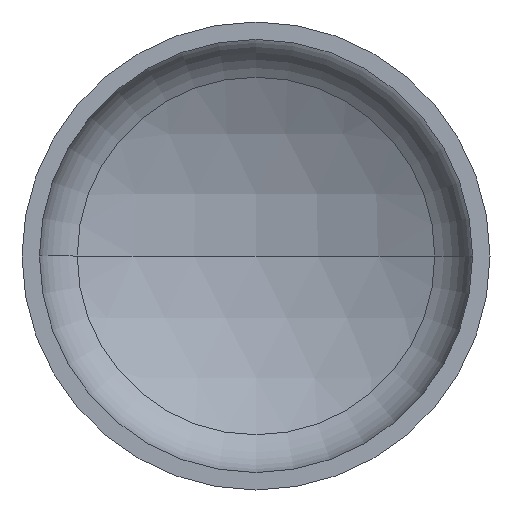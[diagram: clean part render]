
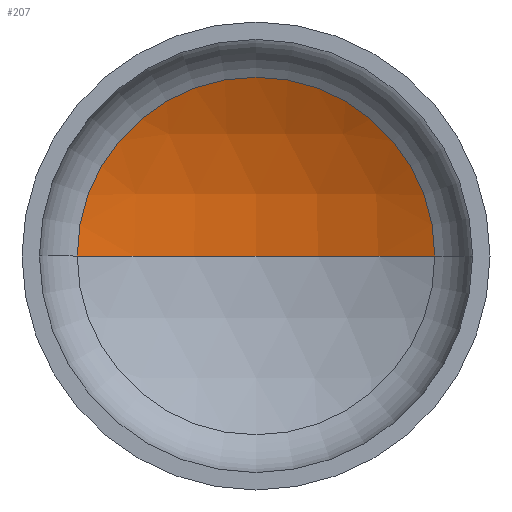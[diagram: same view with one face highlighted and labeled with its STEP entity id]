
A CAD part, front view. The second image highlights one B-rep face of the part: STEP entity #207.
In plain terms, the highlighted spherical face has radius 880 mm.
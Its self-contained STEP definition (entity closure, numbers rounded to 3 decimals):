
#7 = EDGE_LOOP ( 'NONE', ( #87, #408, #45 ) ) ;
#10 = CARTESIAN_POINT ( 'NONE',  ( 420.169, 279.371, 0. ) ) ;
#13 = AXIS2_PLACEMENT_3D ( 'NONE', #352, #213, #141 ) ;
#23 = AXIS2_PLACEMENT_3D ( 'NONE', #256, #193, #194 ) ;
#31 = AXIS2_PLACEMENT_3D ( 'NONE', #190, #50, #48 ) ;
#33 = AXIS2_PLACEMENT_3D ( 'NONE', #129, #297, #235 ) ;
#45 = ORIENTED_EDGE ( 'NONE', *, *, #84, .T. ) ;
#48 = DIRECTION ( 'NONE',  ( -1., 0., 0. ) ) ;
#50 = DIRECTION ( 'NONE',  ( 0., 0., -1. ) ) ;
#78 = VERTEX_POINT ( 'NONE', #312 ) ;
#84 = EDGE_CURVE ( 'NONE', #113, #154, #257, .T. ) ;
#85 = EDGE_CURVE ( 'NONE', #78, #113, #197, .T. ) ;
#86 = FACE_OUTER_BOUND ( 'NONE', #7, .T. ) ;
#87 = ORIENTED_EDGE ( 'NONE', *, *, #332, .F. ) ;
#113 = VERTEX_POINT ( 'NONE', #10 ) ;
#129 = CARTESIAN_POINT ( 'NONE',  ( 0., 279.371, 0. ) ) ;
#141 = DIRECTION ( 'NONE',  ( 1., 0., 0. ) ) ;
#154 = VERTEX_POINT ( 'NONE', #212 ) ;
#171 = CIRCLE ( 'NONE', #13, 880. ) ;
#190 = CARTESIAN_POINT ( 'NONE',  ( 0., -493.842, 0. ) ) ;
#193 = DIRECTION ( 'NONE',  ( 0., 0., -1. ) ) ;
#194 = DIRECTION ( 'NONE',  ( -1., 0., 0. ) ) ;
#197 = CIRCLE ( 'NONE', #31, 880. ) ;
#207 = ADVANCED_FACE ( 'NONE', ( #86 ), #296, .F. ) ;
#212 = CARTESIAN_POINT ( 'NONE',  ( -420.169, 279.371, 0. ) ) ;
#213 = DIRECTION ( 'NONE',  ( 0., 0., 1. ) ) ;
#235 = DIRECTION ( 'NONE',  ( 1., 0., 0. ) ) ;
#256 = CARTESIAN_POINT ( 'NONE',  ( 0., -493.842, 0. ) ) ;
#257 = CIRCLE ( 'NONE', #33, 420.169 ) ;
#296 = SPHERICAL_SURFACE ( 'NONE', #23, 880. ) ;
#297 = DIRECTION ( 'NONE',  ( 0., -1., 0. ) ) ;
#312 = CARTESIAN_POINT ( 'NONE',  ( 0., 386.158, 0. ) ) ;
#332 = EDGE_CURVE ( 'NONE', #78, #154, #171, .T. ) ;
#352 = CARTESIAN_POINT ( 'NONE',  ( 0., -493.842, 0. ) ) ;
#408 = ORIENTED_EDGE ( 'NONE', *, *, #85, .T. ) ;
